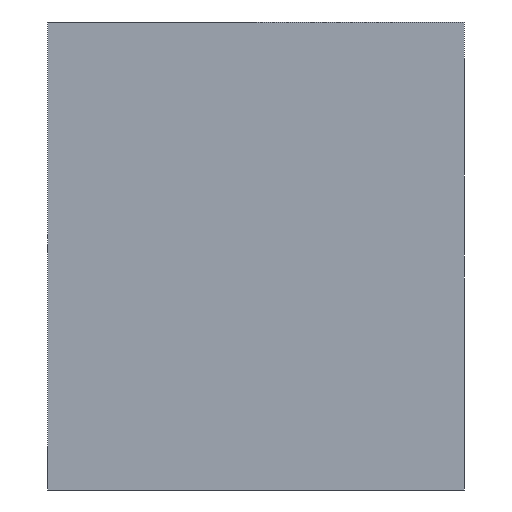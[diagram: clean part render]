
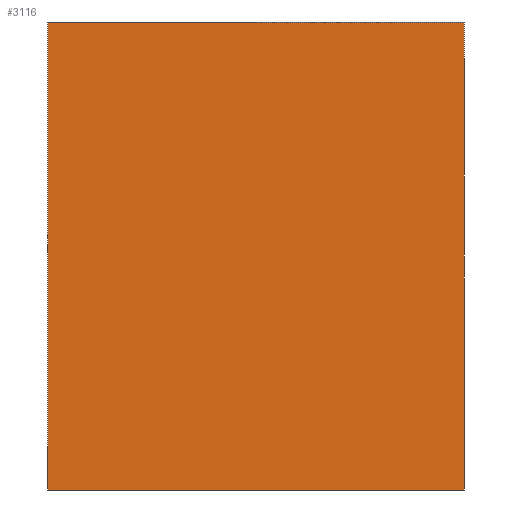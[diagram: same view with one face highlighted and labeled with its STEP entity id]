
A CAD part, left-side view. The second image highlights one B-rep face of the part: STEP entity #3116.
In plain terms, the highlighted planar face has unit normal (-1, 0, 0).
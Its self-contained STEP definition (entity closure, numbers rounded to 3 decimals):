
#23=DIRECTION('',(0.,-1.,0.));
#24=VECTOR('',#23,40.);
#25=CARTESIAN_POINT('',(-80.,40.,0.));
#26=LINE('',#25,#24);
#84=DIRECTION('',(0.,0.,1.));
#85=VECTOR('',#84,45.);
#86=CARTESIAN_POINT('',(-80.,40.,0.));
#87=LINE('',#86,#85);
#329=DIRECTION('',(0.,0.,1.));
#330=VECTOR('',#329,45.);
#331=CARTESIAN_POINT('',(-80.,0.,0.));
#332=LINE('',#331,#330);
#480=DIRECTION('',(0.,-1.,0.));
#481=VECTOR('',#480,40.);
#482=CARTESIAN_POINT('',(-80.,40.,45.));
#483=LINE('',#482,#481);
#2773=CARTESIAN_POINT('',(-80.,40.,0.));
#2774=CARTESIAN_POINT('',(-80.,0.,0.));
#2775=VERTEX_POINT('',#2773);
#2776=VERTEX_POINT('',#2774);
#2781=CARTESIAN_POINT('',(-80.,40.,45.));
#2782=CARTESIAN_POINT('',(-80.,0.,45.));
#2783=VERTEX_POINT('',#2781);
#2784=VERTEX_POINT('',#2782);
#3102=CARTESIAN_POINT('',(-80.,40.,0.));
#3103=DIRECTION('',(-1.,0.,0.));
#3104=DIRECTION('',(0.,-1.,0.));
#3105=AXIS2_PLACEMENT_3D('',#3102,#3103,#3104);
#3106=PLANE('',#3105);
#3107=ORIENTED_EDGE('',*,*,#3067,.F.);
#3109=ORIENTED_EDGE('',*,*,#3108,.T.);
#3111=ORIENTED_EDGE('',*,*,#3110,.T.);
#3113=ORIENTED_EDGE('',*,*,#3112,.F.);
#3114=EDGE_LOOP('',(#3107,#3109,#3111,#3113));
#3115=FACE_OUTER_BOUND('',#3114,.F.);
#3067=EDGE_CURVE('',#2775,#2776,#26,.T.);
#3108=EDGE_CURVE('',#2775,#2783,#87,.T.);
#3110=EDGE_CURVE('',#2783,#2784,#483,.T.);
#3112=EDGE_CURVE('',#2776,#2784,#332,.T.);
#3116=ADVANCED_FACE('',(#3115),#3106,.T.);
